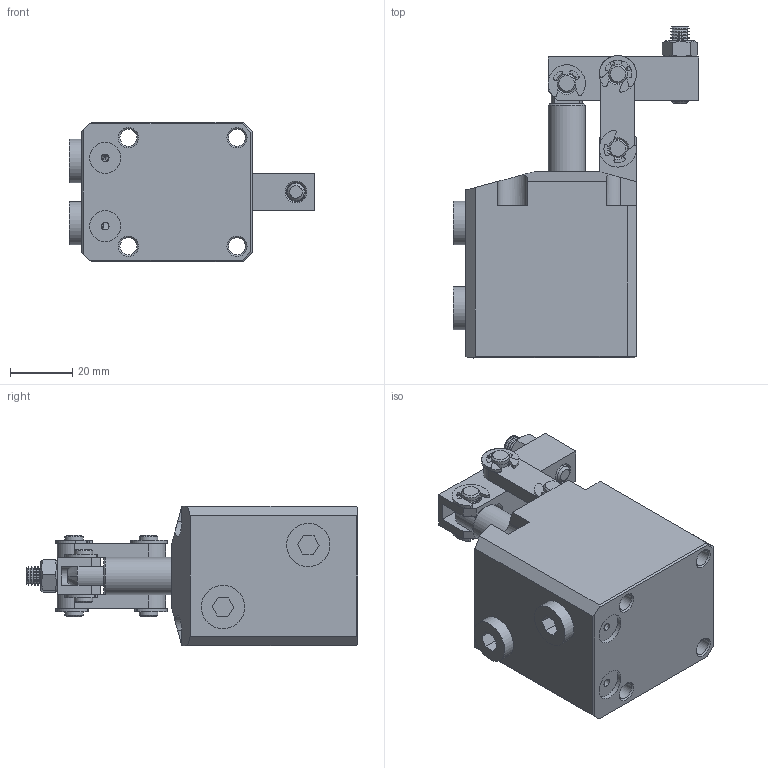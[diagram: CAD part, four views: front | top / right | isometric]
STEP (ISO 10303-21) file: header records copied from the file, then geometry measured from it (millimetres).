
FILE_DESCRIPTION(/* description */ ('STEP AP203'),/* implementation_level */ '2;1');
FILE_NAME(/* name */ 'D:\Vault_2016\Projekty\Clamptek\Hydraulic\CBLU\CBLU-25\STEP\CBLU-25G.stp',/* time_stamp */ '2021-05-06T11:55:52+02:00',/* author */ ('user'),/* organization */ (''),/* preprocessor_version */ 'ST-DEVELOPER v18.1',/* originating_system */ 'Autodesk Inventor 2021',/* authorisation */ '');
FILE_SCHEMA (('AUTOMOTIVE_DESIGN { 1 0 10303 214 3 1 1 }'));
Length unit declared in the file: millimetre
Products named in the file (11): CBLU-25G; ±¾Ìå_1; »îÈû¸Ë_2_1; Ñ¹±Û_1; Á¬¸Ë_1; hex nuts, style 1-grades ab gb_GB_FASTENER_NUT_SNAB1 M6-N_1; ³¤ÏúÖá_1; ¶ÌÏúÖá_1; socket set screw flat point_iso2_ISO 4026 - M6 x 4-S_1; e rings gb_GB_CONNECTING_PIECE_RINGS_HR 6_1; ÄÚÁù½Ç¶ÂÍ·×
îÐÂ_1
Assembly tree (19 placements, depth 2):
  CBLU-25G
    ±¾Ìå_1
    »îÈû¸Ë_2_1
    Ñ¹±Û_1
    Á¬¸Ë_1  x2
    hex nuts, style 1-grades ab gb_GB_FASTENER_NUT_SNAB1 M6-N_1
    e rings gb_GB_CONNECTING_PIECE_RINGS_HR 6_1  x7
    ³¤ÏúÖá_1  x2
    ¶ÌÏúÖá_1
    socket set screw flat point_iso2_ISO 4026 - M6 x 4-S_1
    ÄÚÁù½Ç¶ÂÍ·×
îÐÂ_1  x2
Bounding box: 79 x 107 x 45 mm (x, y, z)
Volume: 141794.4 mm3; surface area: 41037.4 mm2
Topology: 21 solids, 21 shells, 484 faces, 1214 edges, 793 vertices
Faces by surface type: cylinder 190, plane 188, cone 97, bspline 9
Full cylindrical faces by diameter (mm): 2 x2, 2.5 x1, 4.917 x1, 5 x6, 5.5 x4, 6 x63, 9 x4, 10 x2, 12 x2, 14 x2, 19.625 x1, 20 x1, 25 x2, 30 x1, 32 x1
Entity records: 14081 total; most frequent: CARTESIAN_POINT 5667, DIRECTION 1759, ORIENTED_EDGE 1626, EDGE_CURVE 813, AXIS2_PLACEMENT_3D 675, VERTEX_POINT 527, LINE 409, VECTOR 409
